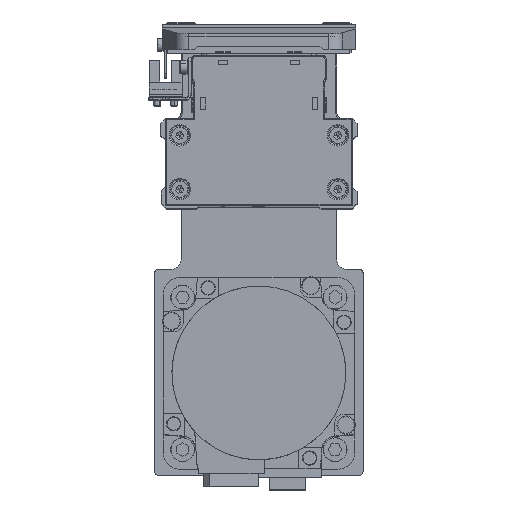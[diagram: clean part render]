
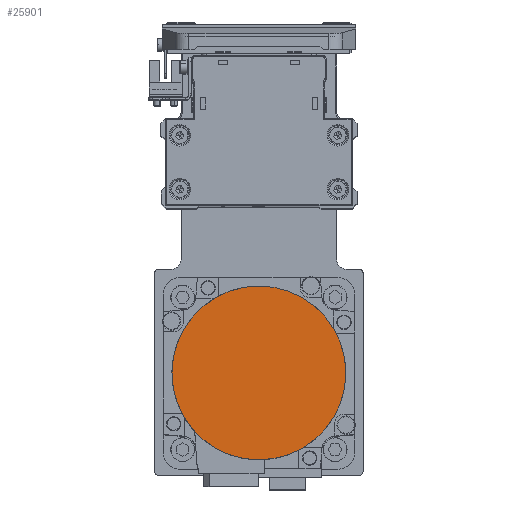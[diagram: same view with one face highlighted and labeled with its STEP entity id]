
A CAD part, top view. The second image highlights one B-rep face of the part: STEP entity #25901.
In plain terms, the highlighted planar face has unit normal (0, 0, 1) as drawn and (0, 0, -1) by its records, which use the part's own axes.
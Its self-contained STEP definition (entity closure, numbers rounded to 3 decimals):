
#404 = DIRECTION ( 'NONE',  ( 0., 1., 0. ) ) ;
#3508 = EDGE_CURVE ( 'NONE', #20792, #14438, #30956, .T. ) ;
#3686 = DIRECTION ( 'NONE',  ( 0., -1., 0. ) ) ;
#10045 = CIRCLE ( 'NONE', #15059, 36.3 ) ;
#11785 = DIRECTION ( 'NONE',  ( 0., 0., 1. ) ) ;
#14019 = AXIS2_PLACEMENT_3D ( 'NONE', #18662, #30647, #3686 ) ;
#14259 = ORIENTED_EDGE ( 'NONE', *, *, #3508, .F. ) ;
#14438 = VERTEX_POINT ( 'NONE', #32202 ) ;
#14747 = FACE_OUTER_BOUND ( 'NONE', #22104, .T. ) ;
#15059 = AXIS2_PLACEMENT_3D ( 'NONE', #15383, #27391, #404 ) ;
#15383 = CARTESIAN_POINT ( 'NONE',  ( 0., 0., -122.2 ) ) ;
#18662 = CARTESIAN_POINT ( 'NONE',  ( 0., 0., -122.2 ) ) ;
#20387 = CARTESIAN_POINT ( 'NONE',  ( 0., -36.3, -122.2 ) ) ;
#20792 = VERTEX_POINT ( 'NONE', #20387 ) ;
#22104 = EDGE_LOOP ( 'NONE', ( #24705, #14259 ) ) ;
#23779 = DIRECTION ( 'NONE',  ( 1., 0., 0. ) ) ;
#24705 = ORIENTED_EDGE ( 'NONE', *, *, #33435, .F. ) ;
#25901 = ADVANCED_FACE ( 'NONE', ( #14747 ), #26739, .F. ) ;
#26739 = PLANE ( 'NONE',  #27452 ) ;
#27391 = DIRECTION ( 'NONE',  ( 0., 0., 1. ) ) ;
#27452 = AXIS2_PLACEMENT_3D ( 'NONE', #38739, #11785, #23779 ) ;
#30647 = DIRECTION ( 'NONE',  ( 0., 0., 1. ) ) ;
#30956 = CIRCLE ( 'NONE', #14019, 36.3 ) ;
#32202 = CARTESIAN_POINT ( 'NONE',  ( 0., 36.3, -122.2 ) ) ;
#33435 = EDGE_CURVE ( 'NONE', #14438, #20792, #10045, .T. ) ;
#38739 = CARTESIAN_POINT ( 'NONE',  ( 0., 0., -122.2 ) ) ;
